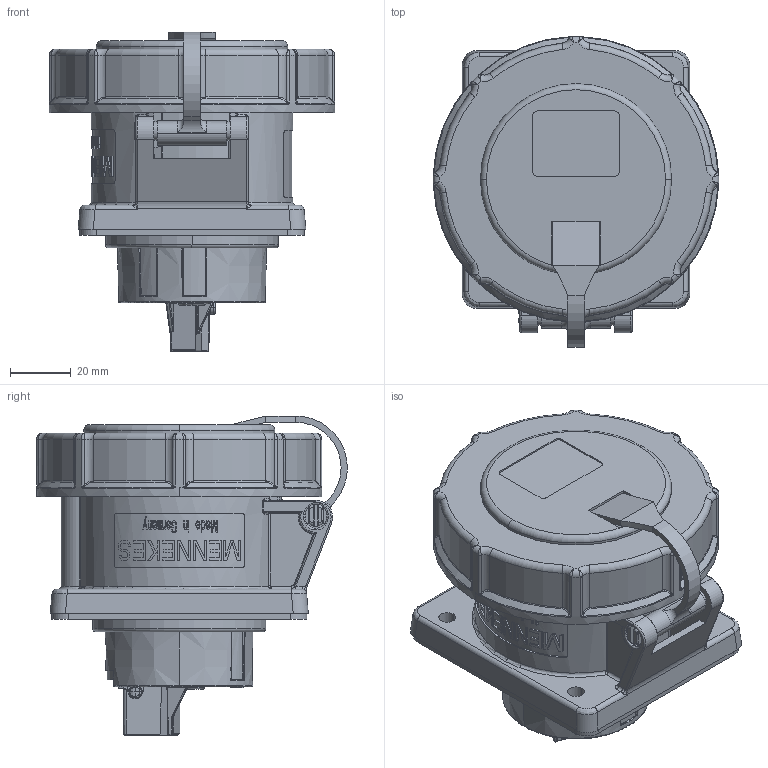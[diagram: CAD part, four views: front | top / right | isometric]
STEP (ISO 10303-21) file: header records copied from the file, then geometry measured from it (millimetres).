
FILE_DESCRIPTION((''),'2;1');
FILE_NAME('23293A_SW0001','2017-10-20T',('gisse'),('MENNEKES'),'PRO/ENGINEER BY PARAMETRIC TECHNOLOGY CORPORATION, 2015440','PRO/ENGINEER BY PARAMETRIC TECHNOLOGY CORPORATION, 2015440','');
FILE_SCHEMA(('AUTOMOTIVE_DESIGN { 1 0 10303 214 1 1 1 1 }'));
Products named in the file (1): 23293A_SW0001
Bounding box: 94 x 102.37 x 105.4 mm (x, y, z)
Volume: 365079.4 mm3; surface area: 46632.7 mm2
Topology: 1 solids, 1 shells, 1826 faces, 4832 edges, 3079 vertices
Faces by surface type: plane 1185, cylinder 294, bspline 185, torus 98, cone 34, sphere 30
Entity records: 101117 total; most frequent: CARTESIAN_POINT 22126, ORIENTED_EDGE 9652, DIRECTION 7752, PRESENTATION_STYLE_ASSIGNMENT 6615, STYLED_ITEM 4828, CURVE_STYLE 4826, EDGE_CURVE 4826, FILL_AREA_STYLE_COLOUR 3555
